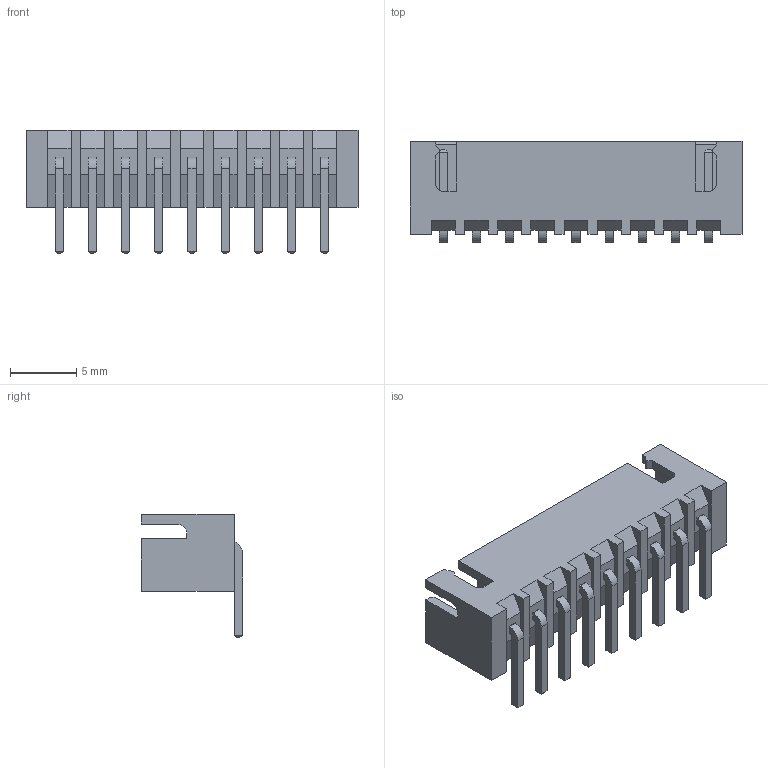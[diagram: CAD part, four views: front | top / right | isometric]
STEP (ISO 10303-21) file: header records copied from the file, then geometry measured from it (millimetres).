
FILE_DESCRIPTION (( 'STEP AP203' ), '1' );
FILE_NAME ('HC-XH-9AW-06 (2.50 等齬 俔渀-HCTL).STEP', '2025-11-28T08:35:13', ( '' ), ( '' ), 'SwSTEP 2.0', 'SolidWorks 2025', '' );
FILE_SCHEMA (( 'CONFIG_CONTROL_DESIGN' ));
Length unit declared in the file: millimetre
Products named in the file (1): HC-XH-9AW-06 (2.50 单排 弯针-HCTL)
Bounding box: 25 x 7.62 x 9.3 mm (x, y, z)
Volume: 400 mm3; surface area: 1333.3 mm2
Topology: 1 solids, 1 shells, 295 faces, 751 edges, 476 vertices
Faces by surface type: plane 269, cylinder 26
Entity records: 8742 total; most frequent: CARTESIAN_POINT 1523, ORIENTED_EDGE 1502, DIRECTION 1395, EDGE_CURVE 751, LINE 699, VECTOR 699, VERTEX_POINT 476, AXIS2_PLACEMENT_3D 348
